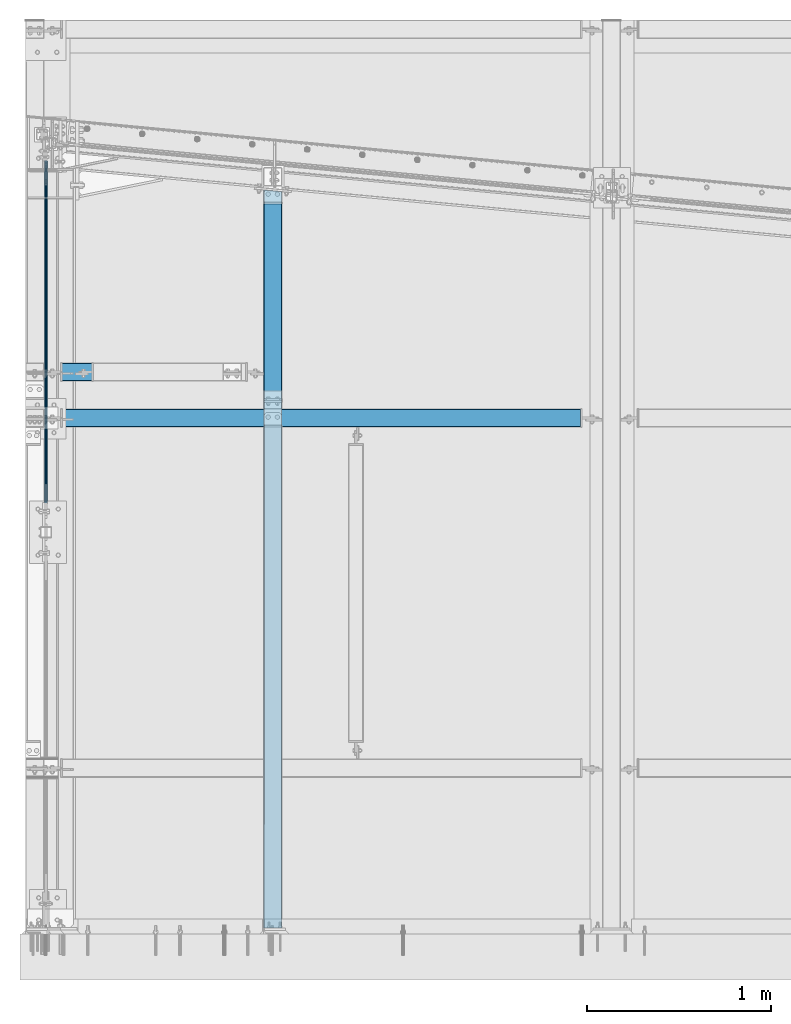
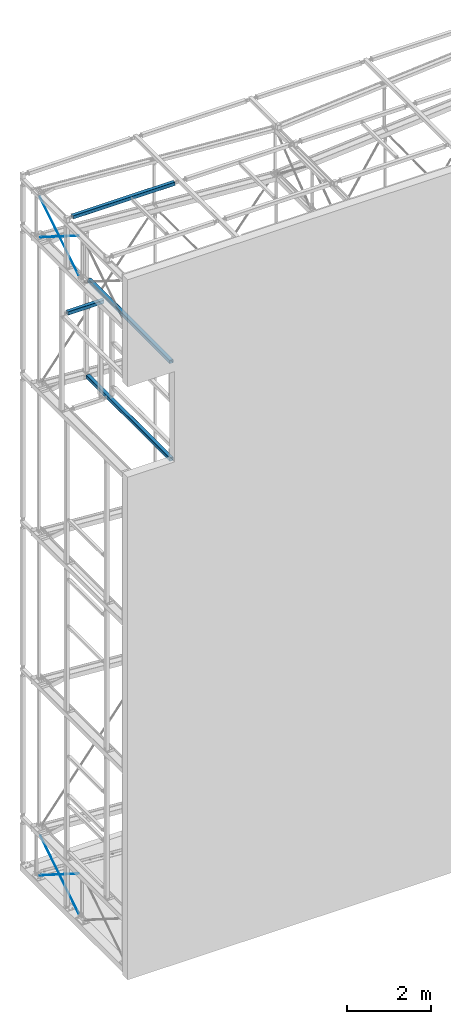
# One storey, part 16 of 271: 4 beams, 4 members, 8 elements without a shape of their own.
"""IFC2X3 building model written with IfcOpenShell, lengths in millimetres."""

import ifcopenshell
import ifcopenshell.guid

model = None  # the IFC model being written
_history = None  # IfcOwnerHistory: only IFC2X3 demands one
_inside = {}  # id of a spatial element -> (the spatial element, [elements in it])
_under = {}  # id of a project, library or spatial element -> (it, [spatial elements below it])
_declared = {}  # id of a project -> (the project, [libraries it declares])
_typed = {}  # id of a type object -> (the type object, [elements of that type])
_made_of = {}  # id of a material, layer set ... -> (it, [elements and type objects made of it])


def new_model(schema):
    """Start an empty IFC model of exactly this schema.

    Asked for "IFC4X3", IfcOpenShell would pick the latest addendum, in which some entities
    have other attributes; the version numbers below select the first issue.
    IFC2X3 requires an IfcOwnerHistory on every rooted entity: one is made here for all.
    """
    global model, _history
    if schema == "IFC4X3":
        model = ifcopenshell.file(schema_version=(4, 3, 0, 0))
    else:
        model = ifcopenshell.file(schema=schema)
    _inside.clear()
    _under.clear()
    _declared.clear()
    _typed.clear()
    _made_of.clear()
    _history = None
    if model.schema == "IFC2X3":
        org = make("IfcOrganization", Name="unknown")
        user = make(
            "IfcPersonAndOrganization",
            ThePerson=make("IfcPerson", FamilyName="unknown"),
            TheOrganization=org,
        )
        app = make(
            "IfcApplication",
            ApplicationDeveloper=org,
            Version="unknown",
            ApplicationFullName="unknown",
            ApplicationIdentifier="unknown",
        )
        _history = make(
            "IfcOwnerHistory",
            OwningUser=user,
            OwningApplication=app,
            ChangeAction="ADDED",
            CreationDate=0,
        )
    return model


def make(cls, **values):
    """One entity of the class cls with the attributes given. An attribute that is None is left unset."""
    return model.create_entity(
        cls, **{name: value for name, value in values.items() if value is not None}
    )


def rooted(cls, **values):
    """An entity with a GlobalId (a new one), such as an element, a storey or a relation."""
    return make(cls, GlobalId=ifcopenshell.guid.new(), OwnerHistory=_history, **values)


def si_unit(unit_type, name, prefix=None):
    """IfcSIUnit, for example si_unit("LENGTHUNIT", "METRE", prefix="MILLI")."""
    return make("IfcSIUnit", UnitType=unit_type, Prefix=prefix, Name=name)


def assignment(units):
    """IfcUnitAssignment: the units of a project."""
    return None if units is None else make("IfcUnitAssignment", Units=units)


def point(xyz):
    """IfcCartesianPoint."""
    return None if xyz is None else make("IfcCartesianPoint", Coordinates=xyz)


def direction(xyz):
    """IfcDirection."""
    return None if xyz is None else make("IfcDirection", DirectionRatios=xyz)


def frame(location, z_axis=None, x_axis=None):
    """IfcAxis2Placement3D, a coordinate frame: its origin and axes. An axis left out is left unset."""
    return make(
        "IfcAxis2Placement3D",
        Location=point(location),
        Axis=direction(z_axis),
        RefDirection=direction(x_axis),
    )


def frame_2d(location, x_axis=None):
    """IfcAxis2Placement2D, a coordinate frame in the plane: its origin and x axis."""
    return make(
        "IfcAxis2Placement2D", Location=point(location), RefDirection=direction(x_axis)
    )


def origin_with_axes():
    """The frame at (0, 0, 0) with the z axis (0, 0, 1) and the x axis (1, 0, 0) written out."""
    return frame((0.0, 0.0, 0.0), z_axis=(0.0, 0.0, 1.0), x_axis=(1.0, 0.0, 0.0))


def origin_2d_with_axis():
    """The frame at (0, 0) in the plane with the x axis (1, 0) written out."""
    return frame_2d((0.0, 0.0), x_axis=(1.0, 0.0))


def place(relative_to, where):
    """IfcLocalPlacement: puts the frame where relative to a parent placement (None: the world)."""
    return make(
        "IfcLocalPlacement", PlacementRelTo=relative_to, RelativePlacement=where
    )


def context(
    kind, dimensions, precision=None, world=None, true_north=None, identifier=None
):
    """IfcGeometricRepresentationContext, for example the 3D "Model" context."""
    return make(
        "IfcGeometricRepresentationContext",
        ContextIdentifier=identifier,
        ContextType=kind,
        CoordinateSpaceDimension=dimensions,
        Precision=precision,
        WorldCoordinateSystem=world,
        TrueNorth=true_north,
    )


def subcontext(parent, identifier, kind, view, scale=None):
    """IfcGeometricRepresentationSubContext, for example "Body" below "Model"."""
    return make(
        "IfcGeometricRepresentationSubContext",
        ContextIdentifier=identifier,
        ContextType=kind,
        ParentContext=parent,
        TargetScale=scale,
        TargetView=view,
    )


def project(units=None, contexts=None):
    """IfcProject with its units and contexts."""
    return rooted(
        "IfcProject",
        Name="project",
        RepresentationContexts=contexts,
        UnitsInContext=assignment(units),
    )


def spatial(cls, under=None, at=None, **own):
    """A site, building, storey or space (cls), placed at a placement, below another one or the project."""
    s = rooted(cls, ObjectPlacement=at, **own)
    if under is not None:
        _under.setdefault(under.id(), (under, []))[1].append(s)
    return s


def profile(cls, at=None, kind="AREA", **sizes):
    """A parametric profile (cls). Its sizes go by their IFC names, for example OverallWidth=200.0."""
    return make(cls, ProfileType=kind, Position=at, **sizes)


def hollow_rectangle(**sizes):
    """IfcRectangleHollowProfileDef."""
    return profile("IfcRectangleHollowProfileDef", **sizes)


def circle(**sizes):
    """IfcCircleProfileDef."""
    return profile("IfcCircleProfileDef", **sizes)


def extrude(swept, where, along, depth):
    """IfcExtrudedAreaSolid: the profile swept, set in the frame where, extruded along a direction by depth."""
    return make(
        "IfcExtrudedAreaSolid",
        SweptArea=swept,
        Position=where,
        ExtrudedDirection=direction(along),
        Depth=depth,
    )


def clip(a, b, op="DIFFERENCE"):
    """IfcBooleanClippingResult: the solid a cut by the half space b."""
    return make(
        "IfcBooleanClippingResult", Operator=op, FirstOperand=a, SecondOperand=b
    )


def halfspace(plane, agree):
    """IfcHalfSpaceSolid: all space on one side of the plane z = 0 of the frame plane."""
    return make(
        "IfcHalfSpaceSolid",
        BaseSurface=make("IfcPlane", Position=plane),
        AgreementFlag=agree,
    )


def shape(context_of_items, identifier, shape_type, items):
    """IfcShapeRepresentation: the items that make up one representation, for example the "Body"."""
    return make(
        "IfcShapeRepresentation",
        ContextOfItems=context_of_items,
        RepresentationIdentifier=identifier,
        RepresentationType=shape_type,
        Items=items,
    )


def material(Name=None, Category=None):
    """IfcMaterial."""
    return make("IfcMaterial", Name=Name, Category=Category)


def made_of(thing, what):
    """Note that an element or type object is made of a material, layer set ...; save() writes the relation."""
    if what is not None:
        _made_of.setdefault(what.id(), (what, []))[1].append(thing)
    return thing


def type_object(cls, material=None, **own):
    """A type object (cls), such as IfcWallType, which elements share."""
    return made_of(rooted(cls, **own), material)


def element(
    cls,
    number,
    at=None,
    inside=None,
    cuts=None,
    type_object=None,
    material=None,
    context=None,
    identifier="Body",
    shape_type=None,
    held_by="IfcProductDefinitionShape",
    body=None,
    shapes=None,
    **own,
):
    """One element of the class cls, such as IfcWall. Its Tag is "e" and its number.

    at: its placement. inside: the storey or other place that contains it. cuts: it is an
    opening in that element (IfcRelVoidsElement). A single representation is given by context,
    identifier, shape_type and body (its items); several are given by shapes. held_by: the class
    of the entity that holds the representations. save() writes the other relations.
    """
    e = rooted(cls, Tag="e%d" % number, ObjectPlacement=at, **own)
    if body is not None:
        shapes = [shape(context, identifier, shape_type, body)]
    if shapes is not None:
        e.Representation = make(held_by, Representations=shapes)
    if inside is not None:
        _inside.setdefault(inside.id(), (inside, []))[1].append(e)
    if cuts is not None:
        rooted(
            "IfcRelVoidsElement", RelatingBuildingElement=cuts, RelatedOpeningElement=e
        )
    if type_object is not None:
        _typed.setdefault(type_object.id(), (type_object, []))[1].append(e)
    return made_of(e, material)


def aggregate(whole, parts):
    """IfcRelAggregates: a whole, such as a stair, and the parts it consists of."""
    return rooted("IfcRelAggregates", RelatingObject=whole, RelatedObjects=parts)


def save(model, path):
    """Write the relations noted so far, then the file.

    IfcRelAggregates (storeys below a building ...), IfcRelContainedInSpatialStructure (elements
    in a storey), IfcRelDefinesByType, IfcRelAssociatesMaterial and IfcRelDeclares: one each for
    every whole, place, type object, material and project.
    """
    for whole, parts in _under.values():
        aggregate(whole, parts)
    for where, things in _inside.values():
        rooted(
            "IfcRelContainedInSpatialStructure",
            RelatedElements=things,
            RelatingStructure=where,
        )
    for kind, things in _typed.values():
        rooted("IfcRelDefinesByType", RelatedObjects=things, RelatingType=kind)
    for what, things in _made_of.values():
        rooted("IfcRelAssociatesMaterial", RelatedObjects=things, RelatingMaterial=what)
    for by, libraries in _declared.values():
        rooted("IfcRelDeclares", RelatingContext=by, RelatedDefinitions=libraries)
    model.write(path)


model = new_model("IFC2X3")

# Units and contexts
model_context = context("Model", 3, precision=1e-05, world=origin_with_axes())
body_context = subcontext(model_context, "Body", "Model", "MODEL_VIEW")
ifc_project = project(units=[si_unit("LENGTHUNIT", "METRE", prefix="MILLI"), si_unit("AREAUNIT", "SQUARE_METRE"), si_unit("VOLUMEUNIT", "CUBIC_METRE"), si_unit("MASSUNIT", "GRAM", prefix="KILO"), si_unit("TIMEUNIT", "SECOND"), si_unit("PLANEANGLEUNIT", "RADIAN"), si_unit("SOLIDANGLEUNIT", "STERADIAN"), si_unit("THERMODYNAMICTEMPERATUREUNIT", "DEGREE_CELSIUS"), si_unit("LUMINOUSINTENSITYUNIT", "LUMEN")], contexts=[model_context])

# Site, building, storey
site_placement = place(None, origin_with_axes())
site = spatial("IfcSite", under=ifc_project, at=site_placement, Name="Undefined", CompositionType="ELEMENT")
building_placement = place(site_placement, origin_with_axes())
building = spatial("IfcBuilding", under=site, at=building_placement, Name="Undefined", CompositionType="ELEMENT")
storey_placement = place(building_placement, origin_with_axes())
storey = spatial("IfcBuildingStorey", under=building, at=storey_placement, Name="Undefined", CompositionType="ELEMENT", Elevation=0.0)

# Assembly, beam
assembly_1_placement = place(storey_placement, origin_with_axes())
assembly_1 = element("IfcElementAssembly", 1, at=assembly_1_placement, inside=storey, AssemblyPlace="NOTDEFINED", PredefinedType="RIGID_FRAME")
ifc_material = material(Name="STEEL/S355JR")
beam_type = type_object("IfcBeamType", Name="SHS100*3", PredefinedType="NOTDEFINED")
beam_1_placement = place(assembly_1_placement, frame((1280.37568709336, 3049.05211980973, 17194.3499999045), z_axis=(0.0, 1.0, 0.0), x_axis=(-1.0, 0.0, 1.38777878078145e-17)))
beam_1 = element("IfcBeam", 2, at=beam_1_placement, type_object=beam_type, material=ifc_material, Name="RYGIEL", ObjectType="SHS100*3", context=body_context, shape_type="Clipping", body=[
    clip(clip(extrude(hollow_rectangle(XDim=100.0, YDim=100.0, WallThickness=3.0, InnerFilletRadius=3.0, OuterFilletRadius=6.0, at=origin_2d_with_axis()), frame((1094.0, 0.0, 0.0), z_axis=(-1.0, 0.0, 1.38777878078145e-17), x_axis=(0.0, -1.0, 0.0)), (0.0, 0.0, 1.0), 1094.0), halfspace(frame((1094.0, 0.0, -15.0), z_axis=(-1.0, 0.0, 1.38777878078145e-17), x_axis=(0.0, 1.0, 0.0)), True)), halfspace(frame((97.9999999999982, 0.0, -15.0), z_axis=(1.0, 0.0, 0.0), x_axis=(0.0, -1.0, 0.0)), True)),
])
aggregate(assembly_1, [beam_1])

assembly_2_placement = place(storey_placement, origin_with_axes())
assembly_2 = element("IfcElementAssembly", 3, at=assembly_2_placement, inside=storey, AssemblyPlace="NOTDEFINED", PredefinedType="RIGID_FRAME")
beam_2_placement = place(assembly_2_placement, frame((1330.37568709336, 3999.05211980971, 14341.8499999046), z_axis=(-1.0, 0.0, 1.38777878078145e-17), x_axis=(0.0, -1.0, 0.0)))
beam_2 = element("IfcBeam", 4, at=beam_2_placement, type_object=beam_type, material=ifc_material, Name="SŁUPEK", ObjectType="SHS100*3", context=body_context, shape_type="Clipping", body=[
    clip(clip(extrude(hollow_rectangle(XDim=100.0, YDim=100.0, WallThickness=3.0, InnerFilletRadius=3.0, OuterFilletRadius=6.0, at=origin_2d_with_axis()), frame((4000.0, 0.0, 0.0), z_axis=(-1.0, 0.0, 1.38777878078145e-17), x_axis=(0.0, -1.0, 0.0)), (0.0, 0.0, 1.0), 4038.39), halfspace(frame((3968.0, 49.9999999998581, 0.0), z_axis=(-1.0, 0.0, 1.38777878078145e-17), x_axis=(0.0, 0.0, 1.0)), True)), halfspace(frame((-28.9077080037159, 0.0, -49.9999999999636), z_axis=(0.995579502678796, 0.0, 0.0939225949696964), x_axis=(0.0, -1.0, 0.0)), True)),
])
aggregate(assembly_2, [beam_2])

assembly_3_placement = place(storey_placement, origin_with_axes())
assembly_3 = element("IfcElementAssembly", 5, at=assembly_3_placement, inside=storey, AssemblyPlace="NOTDEFINED", PredefinedType="RIGID_FRAME")
beam_3_placement = place(assembly_3_placement, frame((1330.37568709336, 3999.05211980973, 17194.3499999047), z_axis=(-1.0, 0.0, 1.38777878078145e-17), x_axis=(0.0, -1.0, 0.0)))
beam_3 = element("IfcBeam", 6, at=beam_3_placement, type_object=beam_type, material=ifc_material, Name="SŁUPEK", ObjectType="SHS100*3", context=body_context, shape_type="Clipping", body=[
    clip(clip(extrude(hollow_rectangle(XDim=100.0, YDim=100.0, WallThickness=3.0, InnerFilletRadius=3.0, OuterFilletRadius=6.0, at=origin_2d_with_axis()), frame((4000.0, 0.0, 0.0), z_axis=(-1.0, 0.0, 1.38777878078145e-17), x_axis=(0.0, -1.0, 0.0)), (0.0, 0.0, 1.0), 4000.0), halfspace(frame((3968.0, -50.0, 0.0), z_axis=(-1.0, 0.0, 1.38777878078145e-17), x_axis=(0.0, 0.0, -1.0)), True)), halfspace(frame((38.00000000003, -15.0, 0.0), z_axis=(1.0, 0.0, 0.0), x_axis=(0.0, 0.0, 1.0)), True)),
])
aggregate(assembly_3, [beam_3])

assembly_4_placement = place(storey_placement, origin_with_axes())
assembly_4 = element("IfcElementAssembly", 7, at=assembly_4_placement, inside=storey, AssemblyPlace="NOTDEFINED", PredefinedType="RIGID_FRAME")
beam_4_placement = place(assembly_4_placement, frame((-11.6243129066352, 2799.32498425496, 20154.3499999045), z_axis=(0.0, 1.0, 0.0), x_axis=(1.0, 0.0, 0.0)))
beam_4 = element("IfcBeam", 8, at=beam_4_placement, type_object=beam_type, material=ifc_material, Name="RYGIEL", ObjectType="SHS100*3", context=body_context, shape_type="Clipping", body=[
    clip(clip(extrude(hollow_rectangle(XDim=100.0, YDim=100.0, WallThickness=3.0, InnerFilletRadius=3.0, OuterFilletRadius=6.0, at=origin_2d_with_axis()), frame((3180.0, 0.0, 0.0), z_axis=(-1.0, 0.0, 1.38777878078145e-17), x_axis=(0.0, -1.0, 0.0)), (0.0, 0.0, 1.0), 3180.0), halfspace(frame((3012.0, 0.0, -15.0), z_axis=(-1.0, 0.0, 1.38777878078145e-17), x_axis=(0.0, 1.0, 0.0)), True)), halfspace(frame((198.000000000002, 0.0, -15.0), z_axis=(1.0, 0.0, 0.0), x_axis=(0.0, -1.0, 0.0)), True)),
])
aggregate(assembly_4, [beam_4])

# Assembly, member
assembly_5_placement = place(storey_placement, origin_with_axes())
assembly_5 = element("IfcElementAssembly", 9, at=assembly_5_placement, inside=storey, AssemblyPlace="NOTDEFINED", PredefinedType="RIGID_FRAME")
member_type = type_object("IfcMemberType", Name="D16", PredefinedType="NOTDEFINED")
member_1_placement = place(assembly_5_placement, frame((98.9999996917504, 2179.19355050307, 18644.3499999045), z_axis=(0.0, 0.533166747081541, -0.846010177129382), x_axis=(0.0, 0.846010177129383, 0.533166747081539)))
member_1 = element("IfcMember", 10, at=member_1_placement, type_object=member_type, material=ifc_material, Name="STĘŻENIE", ObjectType="D16", context=body_context, shape_type="Clipping", body=[
    clip(clip(extrude(circle(Radius=8.0, at=origin_2d_with_axis()), frame((2550.79673827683, 0.0, 0.0), z_axis=(-1.0, 0.0, 1.38777878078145e-17), x_axis=(0.0, -1.0, 0.0)), (0.0, 0.0, 1.0), 2550.8), halfspace(frame((2380.77956970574, -16.0000003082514, 7.45785655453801e-11), z_axis=(-1.0, 0.0, 1.38777878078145e-17), x_axis=(0.0, 0.0, -1.0)), True)), halfspace(frame((193.237913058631, -18.0000003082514, 2.00088834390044e-10), z_axis=(1.0, 0.0, 0.0), x_axis=(0.0, 0.0, 1.0)), True)),
])
aggregate(assembly_5, [member_1])

assembly_6_placement = place(storey_placement, origin_with_axes())
assembly_6 = element("IfcElementAssembly", 11, at=assembly_6_placement, inside=storey, AssemblyPlace="NOTDEFINED", PredefinedType="RIGID_FRAME")
member_2_placement = place(assembly_6_placement, frame((98.9999996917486, 4337.19355050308, 18644.3499999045), z_axis=(0.0, 0.533166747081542, 0.846010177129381), x_axis=(0.0, -0.846010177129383, 0.533166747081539)))
member_2 = element("IfcMember", 12, at=member_2_placement, type_object=member_type, material=ifc_material, Name="STĘŻENIE", ObjectType="D16", context=body_context, shape_type="Clipping", body=[
    clip(clip(extrude(circle(Radius=8.0, at=origin_2d_with_axis()), frame((2550.79673827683, 0.0, 0.0), z_axis=(-1.0, 0.0, 1.38777878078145e-17), x_axis=(0.0, -1.0, 0.0)), (0.0, 0.0, 1.0), 2550.8), halfspace(frame((2358.77795301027, -18.0000003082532, 1.90993887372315e-10), z_axis=(-1.0, 0.0, 1.38777878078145e-17), x_axis=(0.0, 0.0, -1.0)), True)), halfspace(frame((208.748016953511, -16.0000003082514, 9.45874489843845e-11), z_axis=(1.0, 0.0, 0.0), x_axis=(0.0, 0.0, 1.0)), True)),
])
aggregate(assembly_6, [member_2])

assembly_7_placement = place(storey_placement, origin_with_axes())
assembly_7 = element("IfcElementAssembly", 13, at=assembly_7_placement, inside=storey, AssemblyPlace="NOTDEFINED", PredefinedType="RIGID_FRAME")
member_3_placement = place(assembly_7_placement, frame((98.9999996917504, 2179.19355050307, 1364.34999990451), z_axis=(0.0, 0.535126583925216, 0.84477188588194), x_axis=(0.0, 0.84477188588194, -0.535126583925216)))
member_3 = element("IfcMember", 14, at=member_3_placement, type_object=member_type, material=ifc_material, Name="STĘŻENIE", ObjectType="D16", context=body_context, shape_type="Clipping", body=[
    clip(clip(extrude(circle(Radius=8.0, at=origin_2d_with_axis()), frame((2554.53576995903, 1.4210854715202e-14, -1.41805221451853e-13), z_axis=(-1.0, 0.0, 1.38777878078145e-17), x_axis=(0.0, -1.0, 0.0)), (0.0, 0.0, 1.0), 2554.54), halfspace(frame((2384.08042252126, 17.9999996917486, -10.1372626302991), z_axis=(-1.0, 0.0, 1.38777878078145e-17), x_axis=(0.0, 0.0, 1.0)), True)), halfspace(frame((192.793478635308, 17.9999996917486, -3.54702933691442e-11), z_axis=(1.0, 0.0, 0.0), x_axis=(0.0, 0.0, -1.0)), True)),
])
aggregate(assembly_7, [member_3])

assembly_8_placement = place(storey_placement, origin_with_axes())
assembly_8 = element("IfcElementAssembly", 15, at=assembly_8_placement, inside=storey, AssemblyPlace="NOTDEFINED", PredefinedType="RIGID_FRAME")
member_4_placement = place(assembly_8_placement, frame((98.9999996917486, 4337.19355050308, 1361.34999990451), z_axis=(0.0, 0.534287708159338, -0.84530269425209), x_axis=(0.0, -0.84530269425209, -0.534287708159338)))
member_4 = element("IfcMember", 16, at=member_4_placement, type_object=member_type, material=ifc_material, Name="STĘŻENIE", ObjectType="D16", context=body_context, shape_type="Clipping", body=[
    clip(clip(extrude(circle(Radius=8.0, at=origin_2d_with_axis()), frame((2552.93164813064, 0.0, 0.0), z_axis=(-1.0, 0.0, 1.38777878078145e-17), x_axis=(0.0, -1.0, 0.0)), (0.0, 0.0, 1.0), 2552.93), halfspace(frame((2360.84059137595, 17.9999996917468, 7.08127066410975), z_axis=(-1.0, 0.0, 1.38777878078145e-17), x_axis=(0.0, 0.0, 1.0)), True)), halfspace(frame((192.059848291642, 17.9999996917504, -1.02318153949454e-11), z_axis=(1.0, 0.0, 0.0), x_axis=(0.0, 0.0, -1.0)), True)),
])
aggregate(assembly_8, [member_4])

save(model, "model.ifc")
